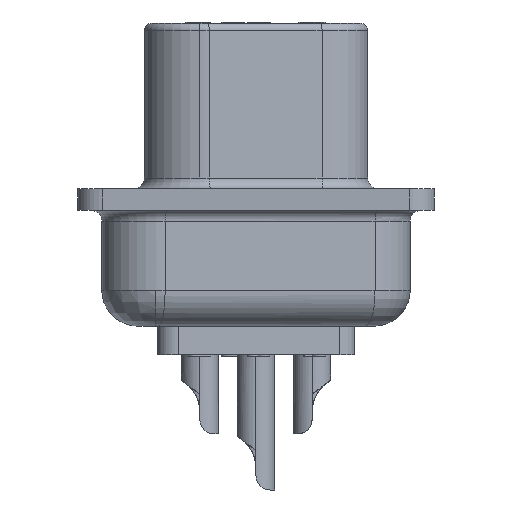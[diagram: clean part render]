
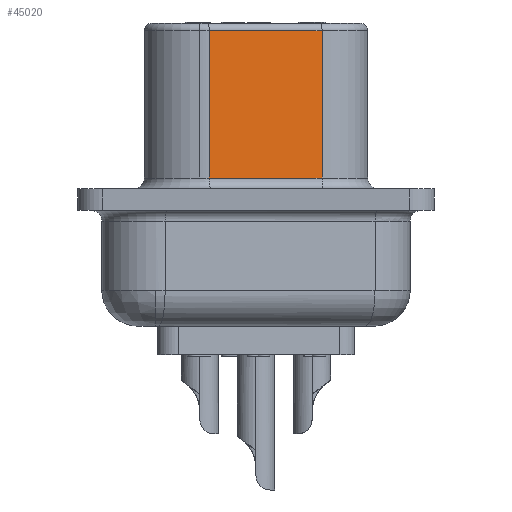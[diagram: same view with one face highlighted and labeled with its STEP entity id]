
A CAD part, left-side view. The second image highlights one B-rep face of the part: STEP entity #45020.
In plain terms, the highlighted planar face has unit normal (-0.985, -0.174, 0).
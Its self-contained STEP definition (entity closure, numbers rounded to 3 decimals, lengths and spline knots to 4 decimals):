
#3814 = VERTEX_POINT('',#3815);
#3815 = CARTESIAN_POINT('',(7.3322,7.9535,5.588));
#3830 = CYLINDRICAL_SURFACE('',#3831,1.9558);
#3831 = AXIS2_PLACEMENT_3D('',#3832,#3833,#3834);
#3832 = CARTESIAN_POINT('',(9.2583,8.2931,5.842));
#3833 = DIRECTION('',(-0.,-0.,-1.));
#3834 = DIRECTION('',(-1.,0.,0.));
#3857 = CYLINDRICAL_SURFACE('',#3858,0.254);
#3858 = AXIS2_PLACEMENT_3D('',#3859,#3860,#3861);
#3859 = CARTESIAN_POINT('',(8.2855,4.0098,5.588));
#3860 = DIRECTION('',(0.174,-0.985,0.));
#3861 = DIRECTION('',(0.985,0.174,0.));
#4018 = VERTEX_POINT('',#4019);
#4019 = CARTESIAN_POINT('',(7.3322,7.9535,0.381));
#4046 = EDGE_CURVE('',#3814,#4018,#4047,.T.);
#4047 = SURFACE_CURVE('',#4048,(#4052,#4059),.PCURVE_S1.);
#4048 = LINE('',#4049,#4050);
#4049 = CARTESIAN_POINT('',(7.3322,7.9535,5.842));
#4050 = VECTOR('',#4051,1.);
#4051 = DIRECTION('',(-0.,-0.,-1.));
#4052 = PCURVE('',#3830,#4053);
#4053 = DEFINITIONAL_REPRESENTATION('',(#4054),#4058);
#4054 = LINE('',#4055,#4056);
#4055 = CARTESIAN_POINT('',(6.109,0.));
#4056 = VECTOR('',#4057,1.);
#4057 = DIRECTION('',(0.,1.));
#4058 = ( GEOMETRIC_REPRESENTATION_CONTEXT(2) 
PARAMETRIC_REPRESENTATION_CONTEXT() REPRESENTATION_CONTEXT('2D SPACE',''
  ) );
#4059 = PCURVE('',#4060,#4065);
#4060 = PLANE('',#4061);
#4061 = AXIS2_PLACEMENT_3D('',#4062,#4063,#4064);
#4062 = CARTESIAN_POINT('',(8.0354,3.9657,5.842));
#4063 = DIRECTION('',(0.985,0.174,-0.));
#4064 = DIRECTION('',(-0.174,0.985,0.));
#4065 = DEFINITIONAL_REPRESENTATION('',(#4066),#4070);
#4066 = LINE('',#4067,#4068);
#4067 = CARTESIAN_POINT('',(4.049,0.));
#4068 = VECTOR('',#4069,1.);
#4069 = DIRECTION('',(0.,-1.));
#4070 = ( GEOMETRIC_REPRESENTATION_CONTEXT(2) 
PARAMETRIC_REPRESENTATION_CONTEXT() REPRESENTATION_CONTEXT('2D SPACE',''
  ) );
#43520 = CYLINDRICAL_SURFACE('',#43521,0.381);
#43521 = AXIS2_PLACEMENT_3D('',#43522,#43523,#43524);
#43522 = CARTESIAN_POINT('',(7.6602,3.8995,0.381));
#43523 = DIRECTION('',(0.174,-0.985,0.));
#43524 = DIRECTION('',(0.985,0.174,0.));
#44495 = EDGE_CURVE('',#44496,#44498,#44500,.T.);
#44496 = VERTEX_POINT('',#44497);
#44497 = CARTESIAN_POINT('',(8.0354,3.9657,5.588));
#44498 = VERTEX_POINT('',#44499);
#44499 = CARTESIAN_POINT('',(8.0354,3.9657,0.381));
#44500 = SURFACE_CURVE('',#44501,(#44505,#44517),.PCURVE_S1.);
#44501 = LINE('',#44502,#44503);
#44502 = CARTESIAN_POINT('',(8.0354,3.9657,5.842));
#44503 = VECTOR('',#44504,1.);
#44504 = DIRECTION('',(-0.,-0.,-1.));
#44505 = PCURVE('',#44506,#44511);
#44506 = CYLINDRICAL_SURFACE('',#44507,1.9558);
#44507 = AXIS2_PLACEMENT_3D('',#44508,#44509,#44510);
#44508 = CARTESIAN_POINT('',(9.9615,4.3053,5.842));
#44509 = DIRECTION('',(-0.,-0.,-1.));
#44510 = DIRECTION('',(-1.,0.,0.));
#44511 = DEFINITIONAL_REPRESENTATION('',(#44512),#44516);
#44512 = LINE('',#44513,#44514);
#44513 = CARTESIAN_POINT('',(6.109,0.));
#44514 = VECTOR('',#44515,1.);
#44515 = DIRECTION('',(0.,1.));
#44516 = ( GEOMETRIC_REPRESENTATION_CONTEXT(2) 
PARAMETRIC_REPRESENTATION_CONTEXT() REPRESENTATION_CONTEXT('2D SPACE',''
  ) );
#44517 = PCURVE('',#4060,#44518);
#44518 = DEFINITIONAL_REPRESENTATION('',(#44519),#44523);
#44519 = LINE('',#44520,#44521);
#44520 = CARTESIAN_POINT('',(0.,0.));
#44521 = VECTOR('',#44522,1.);
#44522 = DIRECTION('',(0.,-1.));
#44523 = ( GEOMETRIC_REPRESENTATION_CONTEXT(2) 
PARAMETRIC_REPRESENTATION_CONTEXT() REPRESENTATION_CONTEXT('2D SPACE',''
  ) );
#45020 = ADVANCED_FACE('',(#45021),#4060,.F.);
#45021 = FACE_BOUND('',#45022,.T.);
#45022 = EDGE_LOOP('',(#45023,#45024,#45045,#45046));
#45023 = ORIENTED_EDGE('',*,*,#4046,.T.);
#45024 = ORIENTED_EDGE('',*,*,#45025,.T.);
#45025 = EDGE_CURVE('',#4018,#44498,#45026,.T.);
#45026 = SURFACE_CURVE('',#45027,(#45031,#45038),.PCURVE_S1.);
#45027 = LINE('',#45028,#45029);
#45028 = CARTESIAN_POINT('',(8.0354,3.9657,0.381));
#45029 = VECTOR('',#45030,1.);
#45030 = DIRECTION('',(0.174,-0.985,0.));
#45031 = PCURVE('',#4060,#45032);
#45032 = DEFINITIONAL_REPRESENTATION('',(#45033),#45037);
#45033 = LINE('',#45034,#45035);
#45034 = CARTESIAN_POINT('',(0.,-5.461));
#45035 = VECTOR('',#45036,1.);
#45036 = DIRECTION('',(-1.,0.));
#45037 = ( GEOMETRIC_REPRESENTATION_CONTEXT(2) 
PARAMETRIC_REPRESENTATION_CONTEXT() REPRESENTATION_CONTEXT('2D SPACE',''
  ) );
#45038 = PCURVE('',#43520,#45039);
#45039 = DEFINITIONAL_REPRESENTATION('',(#45040),#45044);
#45040 = LINE('',#45041,#45042);
#45041 = CARTESIAN_POINT('',(6.283,0.));
#45042 = VECTOR('',#45043,1.);
#45043 = DIRECTION('',(0.,1.));
#45044 = ( GEOMETRIC_REPRESENTATION_CONTEXT(2) 
PARAMETRIC_REPRESENTATION_CONTEXT() REPRESENTATION_CONTEXT('2D SPACE',''
  ) );
#45045 = ORIENTED_EDGE('',*,*,#44495,.F.);
#45046 = ORIENTED_EDGE('',*,*,#45047,.T.);
#45047 = EDGE_CURVE('',#44496,#3814,#45048,.T.);
#45048 = SURFACE_CURVE('',#45049,(#45053,#45060),.PCURVE_S1.);
#45049 = LINE('',#45050,#45051);
#45050 = CARTESIAN_POINT('',(8.0354,3.9657,5.588));
#45051 = VECTOR('',#45052,1.);
#45052 = DIRECTION('',(-0.174,0.985,-0.));
#45053 = PCURVE('',#4060,#45054);
#45054 = DEFINITIONAL_REPRESENTATION('',(#45055),#45059);
#45055 = LINE('',#45056,#45057);
#45056 = CARTESIAN_POINT('',(0.,-0.254));
#45057 = VECTOR('',#45058,1.);
#45058 = DIRECTION('',(1.,0.));
#45059 = ( GEOMETRIC_REPRESENTATION_CONTEXT(2) 
PARAMETRIC_REPRESENTATION_CONTEXT() REPRESENTATION_CONTEXT('2D SPACE',''
  ) );
#45060 = PCURVE('',#3857,#45061);
#45061 = DEFINITIONAL_REPRESENTATION('',(#45062),#45066);
#45062 = LINE('',#45063,#45064);
#45063 = CARTESIAN_POINT('',(3.142,0.));
#45064 = VECTOR('',#45065,1.);
#45065 = DIRECTION('',(0.,-1.));
#45066 = ( GEOMETRIC_REPRESENTATION_CONTEXT(2) 
PARAMETRIC_REPRESENTATION_CONTEXT() REPRESENTATION_CONTEXT('2D SPACE',''
  ) );
